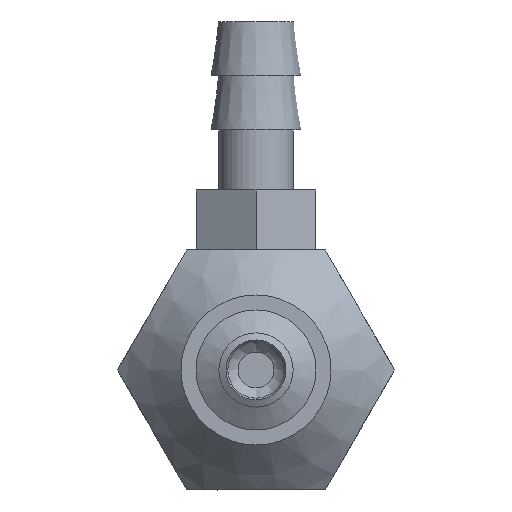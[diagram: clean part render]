
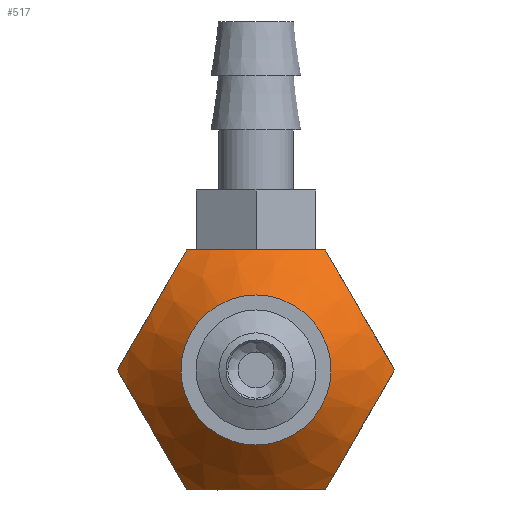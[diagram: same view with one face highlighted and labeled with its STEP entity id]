
A CAD part, front view. The second image highlights one B-rep face of the part: STEP entity #517.
In plain terms, the highlighted conical face has half-angle 45 degrees and reference radius 2.5 mm.
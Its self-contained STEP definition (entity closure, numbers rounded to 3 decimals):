
#517=ADVANCED_FACE('',(#728,#729),#730,.T.);
#728=FACE_BOUND('',#1034,.T.);
#729=FACE_OUTER_BOUND('',#1035,.T.);
#730=CONICAL_SURFACE('',#1036,2.5,0.785);
#1034=EDGE_LOOP('',(#1630));
#1035=EDGE_LOOP('',(#1631,#1632,#1633,#1634,#1635,#1636));
#1036=AXIS2_PLACEMENT_3D('',#1637,#1638,#1639);
#1630=ORIENTED_EDGE('',*,*,#2125,.F.);
#1631=ORIENTED_EDGE('',*,*,#2098,.F.);
#1632=ORIENTED_EDGE('',*,*,#2084,.F.);
#1633=ORIENTED_EDGE('',*,*,#2090,.F.);
#1634=ORIENTED_EDGE('',*,*,#2094,.F.);
#1635=ORIENTED_EDGE('',*,*,#2126,.F.);
#1636=ORIENTED_EDGE('',*,*,#2074,.F.);
#1637=CARTESIAN_POINT('',(0.0,0.,0.0));
#1638=DIRECTION('',(-0.0,1.0,-0.0));
#1639=DIRECTION('',(0.0,0.0,1.0));
#2074=EDGE_CURVE('',#2334,#2335,#2336,.T.);
#2084=EDGE_CURVE('',#2352,#2353,#2354,.T.);
#2090=EDGE_CURVE('',#2362,#2352,#2363,.T.);
#2094=EDGE_CURVE('',#2369,#2362,#2370,.T.);
#2098=EDGE_CURVE('',#2353,#2334,#2376,.T.);
#2125=EDGE_CURVE('',#2426,#2426,#2427,.T.);
#2126=EDGE_CURVE('',#2335,#2369,#2428,.T.);
#2334=VERTEX_POINT('',#2934);
#2335=VERTEX_POINT('',#2935);
#2336=B_SPLINE_CURVE_WITH_KNOTS('',2,(#2936,#2937,#2938,#2939,#2940),.UNSPECIFIED.,.F.,.F.,(3,2,3),(0.0,0.5,1.0),.UNSPECIFIED.);
#2352=VERTEX_POINT('',#2966);
#2353=VERTEX_POINT('',#2967);
#2354=B_SPLINE_CURVE_WITH_KNOTS('',2,(#2968,#2969,#2970,#2971,#2972),.UNSPECIFIED.,.F.,.F.,(3,2,3),(0.0,0.5,1.0),.UNSPECIFIED.);
#2362=VERTEX_POINT('',#2986);
#2363=B_SPLINE_CURVE_WITH_KNOTS('',2,(#2987,#2988,#2989,#2990,#2991),.UNSPECIFIED.,.F.,.F.,(3,2,3),(0.0,0.5,1.0),.UNSPECIFIED.);
#2369=VERTEX_POINT('',#3000);
#2370=B_SPLINE_CURVE_WITH_KNOTS('',2,(#3001,#3002,#3003,#3004,#3005),.UNSPECIFIED.,.F.,.F.,(3,2,3),(0.0,0.5,1.0),.UNSPECIFIED.);
#2376=B_SPLINE_CURVE_WITH_KNOTS('',2,(#3016,#3017,#3018,#3019,#3020),.UNSPECIFIED.,.F.,.F.,(3,2,3),(0.0,0.5,1.0),.UNSPECIFIED.);
#2426=VERTEX_POINT('',#3132);
#2427=CIRCLE('',#3133,2.5);
#2428=B_SPLINE_CURVE_WITH_KNOTS('',2,(#3134,#3135,#3136,#3137,#3138),.UNSPECIFIED.,.F.,.F.,(3,2,3),(0.0,0.5,1.0),.UNSPECIFIED.);
#2934=CARTESIAN_POINT('',(2.309,2.119,-4.0));
#2935=CARTESIAN_POINT('',(-2.309,2.119,-4.0));
#2936=CARTESIAN_POINT('',(2.309,2.119,-4.0));
#2937=CARTESIAN_POINT('',(1.072,1.5,-4.0));
#2938=CARTESIAN_POINT('',(0.001,1.5,-4.0));
#2939=CARTESIAN_POINT('',(-1.071,1.5,-4.0));
#2940=CARTESIAN_POINT('',(-2.309,2.119,-4.0));
#2966=CARTESIAN_POINT('',(2.309,2.119,4.0));
#2967=CARTESIAN_POINT('',(4.619,2.119,0.));
#2968=CARTESIAN_POINT('',(2.309,2.119,4.0));
#2969=CARTESIAN_POINT('',(2.926,1.502,2.932));
#2970=CARTESIAN_POINT('',(3.46,1.5,2.007));
#2971=CARTESIAN_POINT('',(3.998,1.498,1.075));
#2972=CARTESIAN_POINT('',(4.619,2.119,0.));
#2986=CARTESIAN_POINT('',(-2.309,2.119,4.0));
#2987=CARTESIAN_POINT('',(-2.309,2.119,4.0));
#2988=CARTESIAN_POINT('',(-1.072,1.5,4.0));
#2989=CARTESIAN_POINT('',(-0.001,1.5,4.0));
#2990=CARTESIAN_POINT('',(1.071,1.5,4.0));
#2991=CARTESIAN_POINT('',(2.309,2.119,4.0));
#3000=CARTESIAN_POINT('',(-4.619,2.119,0.));
#3001=CARTESIAN_POINT('',(-4.619,2.119,0.));
#3002=CARTESIAN_POINT('',(-4.002,1.502,1.068));
#3003=CARTESIAN_POINT('',(-3.468,1.5,1.993));
#3004=CARTESIAN_POINT('',(-2.93,1.498,2.925));
#3005=CARTESIAN_POINT('',(-2.309,2.119,4.));
#3016=CARTESIAN_POINT('',(4.619,2.119,0.));
#3017=CARTESIAN_POINT('',(4.002,1.502,-1.068));
#3018=CARTESIAN_POINT('',(3.468,1.5,-1.993));
#3019=CARTESIAN_POINT('',(2.93,1.498,-2.925));
#3020=CARTESIAN_POINT('',(2.309,2.119,-4.));
#3132=CARTESIAN_POINT('',(0.0,0.,-2.5));
#3133=AXIS2_PLACEMENT_3D('',#3477,#3478,#3479);
#3134=CARTESIAN_POINT('',(-2.309,2.119,-4.0));
#3135=CARTESIAN_POINT('',(-2.926,1.502,-2.932));
#3136=CARTESIAN_POINT('',(-3.46,1.5,-2.007));
#3137=CARTESIAN_POINT('',(-3.998,1.498,-1.075));
#3138=CARTESIAN_POINT('',(-4.619,2.119,0.));
#3477=CARTESIAN_POINT('',(0.0,0.,0.0));
#3478=DIRECTION('',(0.0,-1.0,0.0));
#3479=DIRECTION('',(0.0,0.0,-1.0));
